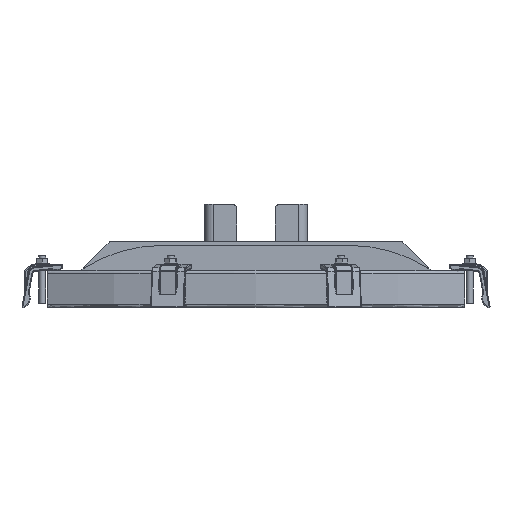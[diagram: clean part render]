
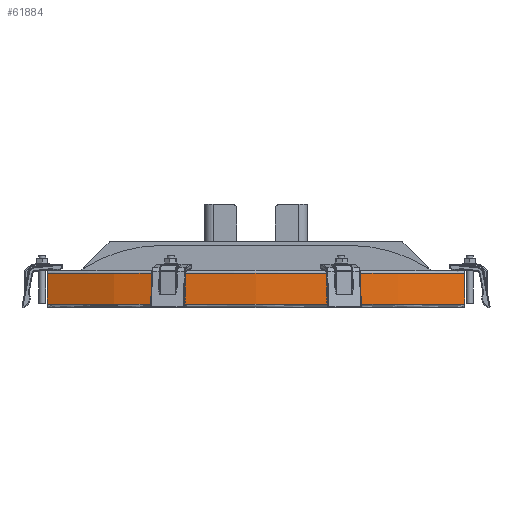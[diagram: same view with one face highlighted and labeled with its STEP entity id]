
A CAD part, front view. The second image highlights one B-rep face of the part: STEP entity #61884.
In plain terms, the highlighted cylindrical face has radius 552 mm (diameter 1104 mm), a partial arc.
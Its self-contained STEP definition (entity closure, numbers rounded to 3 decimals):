
#1203 = ORIENTED_EDGE ( 'NONE', *, *, #13093, .T. ) ;
#2377 = AXIS2_PLACEMENT_3D ( 'NONE', #43739, #72416, #38235 ) ;
#4272 = CIRCLE ( 'NONE', #37039, 552. ) ;
#7087 = CARTESIAN_POINT ( 'NONE',  ( 245.333, 45.515, 40. ) ) ;
#7132 = CYLINDRICAL_SURFACE ( 'NONE', #32744, 552. ) ;
#13093 = EDGE_CURVE ( 'NONE', #13192, #45409, #19987, .T. ) ;
#13192 = VERTEX_POINT ( 'NONE', #34201 ) ;
#16926 = VECTOR ( 'NONE', #55727, 1000. ) ;
#18420 = VERTEX_POINT ( 'NONE', #57824 ) ;
#18635 = EDGE_CURVE ( 'NONE', #13192, #18420, #69497, .T. ) ;
#19987 = CIRCLE ( 'NONE', #2377, 552. ) ;
#20020 = CARTESIAN_POINT ( 'NONE',  ( 0., 540., 0. ) ) ;
#23120 = CARTESIAN_POINT ( 'NONE',  ( -245.333, 45.515, 40. ) ) ;
#25432 = DIRECTION ( 'NONE',  ( 0., 0., -1. ) ) ;
#25546 = CARTESIAN_POINT ( 'NONE',  ( 0., 540., 4. ) ) ;
#32744 = AXIS2_PLACEMENT_3D ( 'NONE', #20020, #58495, #37538 ) ;
#33861 = VERTEX_POINT ( 'NONE', #54905 ) ;
#34201 = CARTESIAN_POINT ( 'NONE',  ( 245.333, 45.515, 40. ) ) ;
#34521 = CARTESIAN_POINT ( 'NONE',  ( -245.333, 45.515, 40. ) ) ;
#35708 = EDGE_LOOP ( 'NONE', ( #45685, #1203, #36632, #48871 ) ) ;
#36632 = ORIENTED_EDGE ( 'NONE', *, *, #64584, .T. ) ;
#37039 = AXIS2_PLACEMENT_3D ( 'NONE', #25546, #47892, #70335 ) ;
#37538 = DIRECTION ( 'NONE',  ( -1., 0., 0. ) ) ;
#38235 = DIRECTION ( 'NONE',  ( -1., 0., 0. ) ) ;
#43739 = CARTESIAN_POINT ( 'NONE',  ( 0., 540., 40. ) ) ;
#45409 = VERTEX_POINT ( 'NONE', #34521 ) ;
#45685 = ORIENTED_EDGE ( 'NONE', *, *, #18635, .F. ) ;
#47892 = DIRECTION ( 'NONE',  ( 0., 0., -1. ) ) ;
#48871 = ORIENTED_EDGE ( 'NONE', *, *, #65932, .F. ) ;
#52213 = FACE_OUTER_BOUND ( 'NONE', #35708, .T. ) ;
#54905 = CARTESIAN_POINT ( 'NONE',  ( -245.333, 45.515, 4. ) ) ;
#55727 = DIRECTION ( 'NONE',  ( 0., 0., -1. ) ) ;
#57824 = CARTESIAN_POINT ( 'NONE',  ( 245.333, 45.515, 4. ) ) ;
#58495 = DIRECTION ( 'NONE',  ( 0., 0., -1. ) ) ;
#60691 = VECTOR ( 'NONE', #25432, 1000. ) ;
#61884 = ADVANCED_FACE ( 'NONE', ( #52213 ), #7132, .T. ) ;
#64584 = EDGE_CURVE ( 'NONE', #45409, #33861, #67162, .T. ) ;
#65932 = EDGE_CURVE ( 'NONE', #18420, #33861, #4272, .T. ) ;
#67162 = LINE ( 'NONE', #23120, #16926 ) ;
#69497 = LINE ( 'NONE', #7087, #60691 ) ;
#70335 = DIRECTION ( 'NONE',  ( -1., 0., 0. ) ) ;
#72416 = DIRECTION ( 'NONE',  ( 0., 0., -1. ) ) ;
